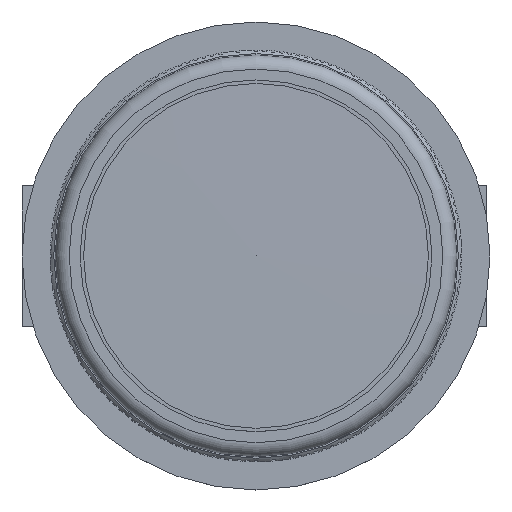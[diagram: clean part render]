
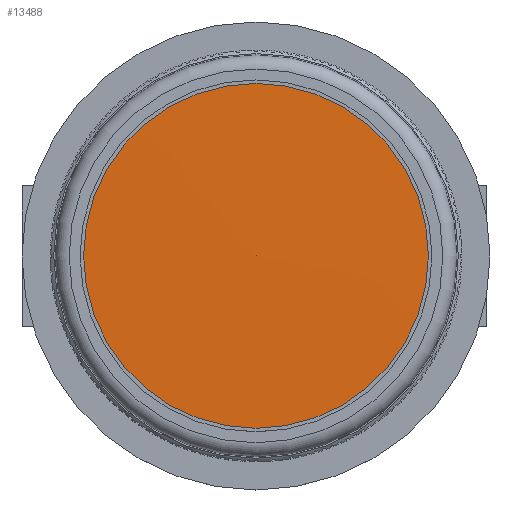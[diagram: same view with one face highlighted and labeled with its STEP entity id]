
A CAD part, top view. The second image highlights one B-rep face of the part: STEP entity #13488.
In plain terms, the highlighted conical face has half-angle 89.81 degrees and reference radius 12.25 mm.
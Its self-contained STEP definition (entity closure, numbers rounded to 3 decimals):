
#83=CONICAL_SURFACE('',#14634,12.25,1.567);
#2099=LINE('',#22264,#3522);
#3522=VECTOR('',#17935,12.25);
#4401=FACE_OUTER_BOUND('',#5099,.T.);
#5099=EDGE_LOOP('',(#12420,#12421,#12422));
#5529=CIRCLE('',#14635,24.501);
#6781=VERTEX_POINT('',#22261);
#6782=VERTEX_POINT('',#22263);
#8684=EDGE_CURVE('',#6781,#6781,#5529,.T.);
#8685=EDGE_CURVE('',#6781,#6782,#2099,.T.);
#12420=ORIENTED_EDGE('',*,*,#8684,.F.);
#12421=ORIENTED_EDGE('',*,*,#8685,.T.);
#12422=ORIENTED_EDGE('',*,*,#8685,.F.);
#13488=ADVANCED_FACE('',(#4401),#83,.T.);
#14634=AXIS2_PLACEMENT_3D('',#22260,#17931,#17932);
#14635=AXIS2_PLACEMENT_3D('',#22262,#17933,#17934);
#17931=DIRECTION('center_axis',(1.,0.,0.));
#17932=DIRECTION('ref_axis',(0.,1.,0.));
#17933=DIRECTION('center_axis',(1.,0.,0.));
#17934=DIRECTION('ref_axis',(0.,0.,-1.));
#17935=DIRECTION('',(-0.003,1.,0.));
#22260=CARTESIAN_POINT('Origin',(167.394,108.808,0.));
#22261=CARTESIAN_POINT('',(167.435,84.307,0.));
#22262=CARTESIAN_POINT('Origin',(167.435,108.808,0.));
#22263=CARTESIAN_POINT('',(167.353,108.808,0.));
#22264=CARTESIAN_POINT('',(167.394,96.558,0.));
